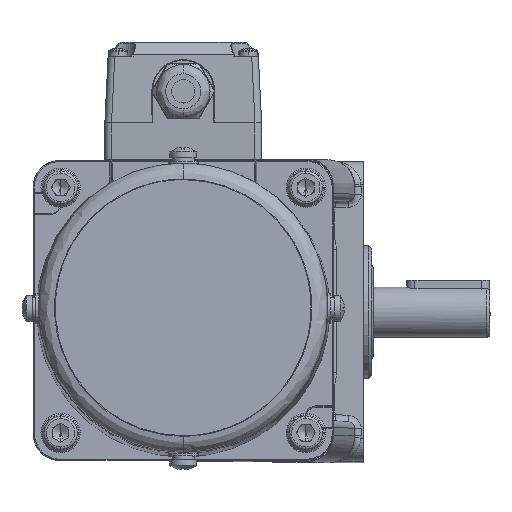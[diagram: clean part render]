
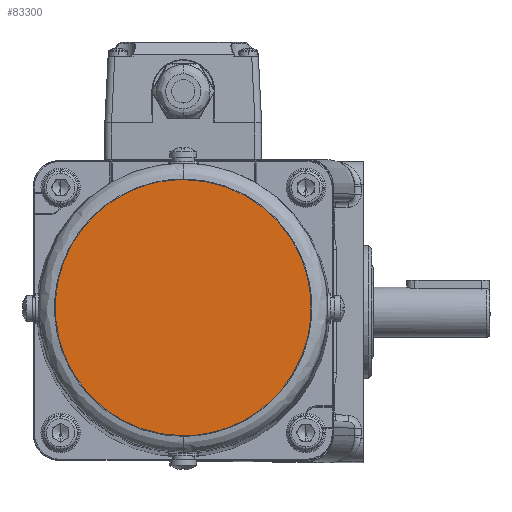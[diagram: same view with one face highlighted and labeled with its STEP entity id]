
A CAD part, front view. The second image highlights one B-rep face of the part: STEP entity #83300.
In plain terms, the highlighted planar face has unit normal (0, -1, 0.005) as drawn and (0, 0, -1) by its records, which use the part's own axes.
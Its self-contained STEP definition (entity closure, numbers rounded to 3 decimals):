
#479 = FACE_OUTER_BOUND ( 'NONE', #54923, .T. ) ;
#3284 =( BOUNDED_CURVE ( )  B_SPLINE_CURVE ( 3, ( #27542, #20364, #101619, #111089 ),
 .UNSPECIFIED., .F., .F. ) 
 B_SPLINE_CURVE_WITH_KNOTS ( ( 4, 4 ),
 ( 0., 1. ),
 .UNSPECIFIED. ) 
 CURVE ( )  GEOMETRIC_REPRESENTATION_ITEM ( )  RATIONAL_B_SPLINE_CURVE ( ( 1., 0.333, 0.333, 1. ) ) 
 REPRESENTATION_ITEM ( '' )  );
#5176 = AXIS2_PLACEMENT_3D ( 'NONE', #19972, #37799, #92934 ) ;
#19972 = CARTESIAN_POINT ( 'NONE',  ( -5.153, -12.836, 94.25 ) ) ;
#20364 = CARTESIAN_POINT ( 'NONE',  ( -43.551, -89.636, 94.25 ) ) ;
#27542 = CARTESIAN_POINT ( 'NONE',  ( -43.553, -12.836, 94.25 ) ) ;
#32622 = VERTEX_POINT ( 'NONE', #81478 ) ;
#37799 = DIRECTION ( 'NONE',  ( 0., 0., 1. ) ) ;
#42252 = CARTESIAN_POINT ( 'NONE',  ( 33.245, 63.965, 94.25 ) ) ;
#44342 = CARTESIAN_POINT ( 'NONE',  ( -43.553, -12.836, 94.25 ) ) ;
#45186 = EDGE_CURVE ( 'NONE', #32622, #66957, #92620, .T. ) ;
#46705 = PLANE ( 'NONE',  #5176 ) ;
#54923 = EDGE_LOOP ( 'NONE', ( #84635, #56745 ) ) ;
#56745 = ORIENTED_EDGE ( 'NONE', *, *, #45186, .F. ) ;
#57720 = CARTESIAN_POINT ( 'NONE',  ( -43.553, -12.836, 94.25 ) ) ;
#58909 = CARTESIAN_POINT ( 'NONE',  ( 33.247, -12.835, 94.25 ) ) ;
#66957 = VERTEX_POINT ( 'NONE', #44342 ) ;
#78426 = CARTESIAN_POINT ( 'NONE',  ( -43.555, 63.964, 94.25 ) ) ;
#80182 = EDGE_CURVE ( 'NONE', #66957, #32622, #3284, .T. ) ;
#81478 = CARTESIAN_POINT ( 'NONE',  ( 33.247, -12.835, 94.25 ) ) ;
#83300 = ADVANCED_FACE ( 'NONE', ( #479 ), #46705, .F. ) ;
#84635 = ORIENTED_EDGE ( 'NONE', *, *, #80182, .F. ) ;
#92620 =( BOUNDED_CURVE ( )  B_SPLINE_CURVE ( 3, ( #58909, #42252, #78426, #57720 ),
 .UNSPECIFIED., .F., .F. ) 
 B_SPLINE_CURVE_WITH_KNOTS ( ( 4, 4 ),
 ( 0., 1. ),
 .UNSPECIFIED. ) 
 CURVE ( )  GEOMETRIC_REPRESENTATION_ITEM ( )  RATIONAL_B_SPLINE_CURVE ( ( 1., 0.333, 0.333, 1. ) ) 
 REPRESENTATION_ITEM ( '' )  );
#92934 = DIRECTION ( 'NONE',  ( 1., 0., 0. ) ) ;
#101619 = CARTESIAN_POINT ( 'NONE',  ( 33.249, -89.635, 94.25 ) ) ;
#111089 = CARTESIAN_POINT ( 'NONE',  ( 33.247, -12.835, 94.25 ) ) ;
